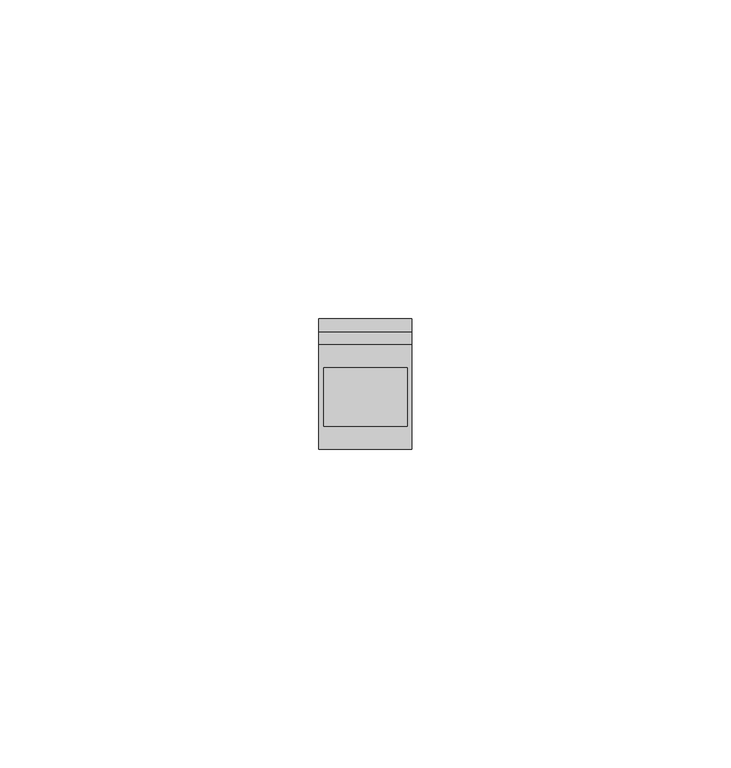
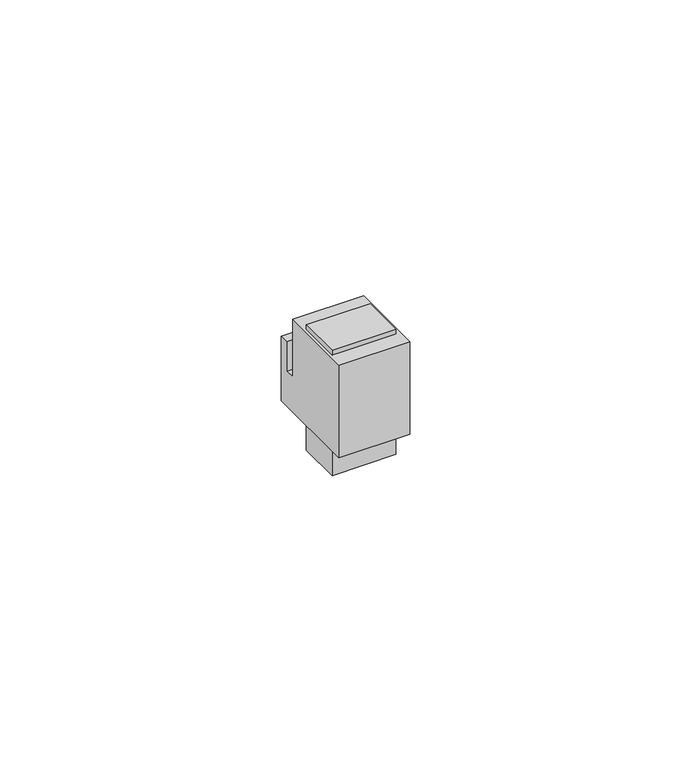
"""IFC4 building model written with IfcOpenShell, lengths in millimetres: electric appliance geometry, Data_Device-Network-Leviton-QuickPort-Adapter-Fiber : SC Single-mode, Laser Optimized."""

from ifc_helpers import new_model, si_unit, frame, origin, place, context, project, spatial, polyline, outline, extrude, source, transform, mapped, element, save


def electric_appliance_db336988(model_context):
    return source(origin(), model_context, "Body", "SweptSolid", [
        extrude(outline(polyline([(6.5405, 12.7638006), (6.5405, 3.6191994), (-6.5405, 3.6191994), (-6.5405, 12.7638006), (6.5405, 12.7638006)])), frame((0.0, 0.0, -26.416), z_axis=(0.0, 0.0, 1.0), x_axis=(1.0, 0.0, 0.0)), (0.0, 0.0, 1.0), 27.178),
        extrude(outline(polyline([(0.0, 0.0254), (16.383, 0.0254), (16.383, -12.446), (18.415, -12.446), (18.415, -6.096), (20.447, -6.096), (20.447, -20.066), (0.0, -20.066), (0.0, 0.0254)])), frame((-7.3025, 0.0, 0.0), z_axis=(1.0, 0.0, 0.0), x_axis=(0.0, 1.0, 0.0)), (0.0, 0.0, 1.0), 14.605),
    ])


if __name__ == "__main__":
    model = new_model("IFC4")
    model_context = context("Model", 3, world=origin())
    ifc_project = project(units=[si_unit("LENGTHUNIT", "METRE", prefix="MILLI")], contexts=[model_context])
    site = spatial("IfcSite", under=ifc_project)
    building = spatial("IfcBuilding", under=site)
    placement = place(None, origin())
    electric_appliance_shape = electric_appliance_db336988(model_context)
    element("IfcElectricAppliance", 1, ObjectType="Data_Device-Network-Leviton-QuickPort-Adapter-Fiber : SC Single-mode, Laser Optimized", at=placement, inside=building, context=model_context, shape_type="MappedRepresentation", body=[
        mapped(electric_appliance_shape, transform((0.0, 0.0, 0.0), x_axis=(1.0, 0.0, 0.0), y_axis=(0.0, 1.0, 0.0), z_axis=(0.0, 0.0, 1.0))),
    ])
    save(model, "model.ifc")
